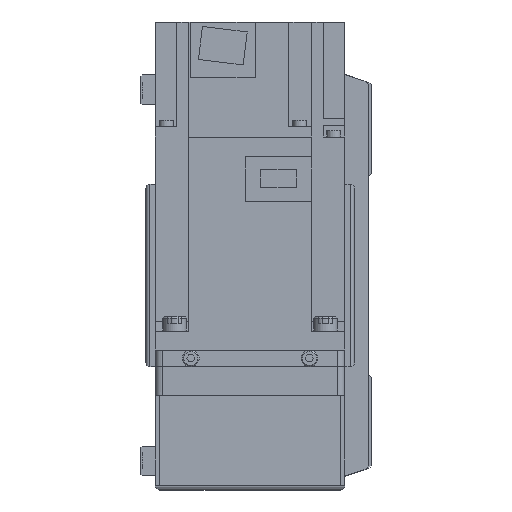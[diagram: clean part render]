
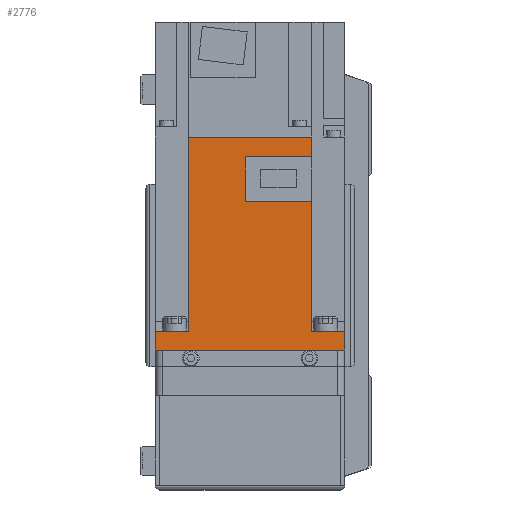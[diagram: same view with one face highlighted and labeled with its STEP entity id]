
A CAD part, left-side view. The second image highlights one B-rep face of the part: STEP entity #2776.
In plain terms, the highlighted planar face has unit normal (-1, 0, 0) as drawn and (1, 0, 0) by its records, which use the part's own axes.
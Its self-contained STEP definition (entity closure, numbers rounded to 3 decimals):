
#2776 = ADVANCED_FACE( '', ( #5897 ), #5898, .F. );
#5897 = FACE_OUTER_BOUND( '', #9329, .T. );
#5898 = PLANE( '', #9330 );
#9329 = EDGE_LOOP( '', ( #17227, #17228, #17229, #17230, #17231, #17232, #17233, #17234, #17235, #17236, #17237, #17238 ) );
#9330 = AXIS2_PLACEMENT_3D( '', #17239, #17240, #17241 );
#17227 = ORIENTED_EDGE( '', *, *, #21465, .F. );
#17228 = ORIENTED_EDGE( '', *, *, #22621, .F. );
#17229 = ORIENTED_EDGE( '', *, *, #21736, .F. );
#17230 = ORIENTED_EDGE( '', *, *, #22601, .T. );
#17231 = ORIENTED_EDGE( '', *, *, #22622, .F. );
#17232 = ORIENTED_EDGE( '', *, *, #22179, .T. );
#17233 = ORIENTED_EDGE( '', *, *, #21539, .T. );
#17234 = ORIENTED_EDGE( '', *, *, #21922, .F. );
#17235 = ORIENTED_EDGE( '', *, *, #20512, .F. );
#17236 = ORIENTED_EDGE( '', *, *, #22623, .F. );
#17237 = ORIENTED_EDGE( '', *, *, #21759, .F. );
#17238 = ORIENTED_EDGE( '', *, *, #22291, .F. );
#17239 = CARTESIAN_POINT( '', ( 40., 89.8, 40. ) );
#17240 = DIRECTION( '', ( -1., 0., 0. ) );
#17241 = DIRECTION( '', ( 0., 0., 1. ) );
#20512 = EDGE_CURVE( '', #24884, #24885, #24886, .T. );
#21465 = EDGE_CURVE( '', #25318, #26388, #26389, .T. );
#21539 = EDGE_CURVE( '', #26499, #26497, #26500, .T. );
#21736 = EDGE_CURVE( '', #26773, #26769, #26775, .T. );
#21759 = EDGE_CURVE( '', #26808, #25319, #26809, .T. );
#21922 = EDGE_CURVE( '', #24885, #26497, #27036, .T. );
#22179 = EDGE_CURVE( '', #27365, #26499, #27366, .T. );
#22291 = EDGE_CURVE( '', #26388, #26808, #27509, .T. );
#22601 = EDGE_CURVE( '', #26773, #27893, #27895, .T. );
#22621 = EDGE_CURVE( '', #26769, #25318, #27916, .T. );
#22622 = EDGE_CURVE( '', #27365, #27893, #27917, .T. );
#22623 = EDGE_CURVE( '', #25319, #24884, #27918, .T. );
#24884 = VERTEX_POINT( '', #31043 );
#24885 = VERTEX_POINT( '', #31044 );
#24886 = LINE( '', #31045, #31046 );
#25318 = VERTEX_POINT( '', #31645 );
#25319 = VERTEX_POINT( '', #31646 );
#26388 = VERTEX_POINT( '', #33470 );
#26389 = LINE( '', #33471, #33472 );
#26497 = VERTEX_POINT( '', #33645 );
#26499 = VERTEX_POINT( '', #33648 );
#26500 = LINE( '', #33649, #33650 );
#26769 = VERTEX_POINT( '', #34155 );
#26773 = VERTEX_POINT( '', #34161 );
#26775 = LINE( '', #34164, #34165 );
#26808 = VERTEX_POINT( '', #34220 );
#26809 = LINE( '', #34221, #34222 );
#27036 = LINE( '', #34571, #34572 );
#27365 = VERTEX_POINT( '', #35063 );
#27366 = LINE( '', #35064, #35065 );
#27509 = LINE( '', #35263, #35264 );
#27893 = VERTEX_POINT( '', #35804 );
#27895 = LINE( '', #35807, #35808 );
#27916 = LINE( '', #35838, #35839 );
#27917 = LINE( '', #35840, #35841 );
#27918 = LINE( '', #35842, #35843 );
#31043 = CARTESIAN_POINT( '', ( 40., 8., -25.95 ) );
#31044 = CARTESIAN_POINT( '', ( 40., 8., -40. ) );
#31045 = CARTESIAN_POINT( '', ( 40., 8., 40. ) );
#31046 = VECTOR( '', #37765, 1000. );
#31645 = CARTESIAN_POINT( '', ( 40., 81.4, -25.95 ) );
#31646 = CARTESIAN_POINT( '', ( 40., 62.8, -25.95 ) );
#33470 = CARTESIAN_POINT( '', ( 40., 81.4, 1.8 ) );
#33471 = CARTESIAN_POINT( '', ( 40., 81.4, -26. ) );
#33472 = VECTOR( '', #39010, 1000. );
#33645 = CARTESIAN_POINT( '', ( 40., 0., -40. ) );
#33648 = CARTESIAN_POINT( '', ( 40., 0., 40. ) );
#33649 = CARTESIAN_POINT( '', ( 40., 0., 40. ) );
#33650 = VECTOR( '', #39082, 1000. );
#34155 = CARTESIAN_POINT( '', ( 40., 89.8, -25.95 ) );
#34161 = CARTESIAN_POINT( '', ( 40., 89.8, 25.95 ) );
#34164 = CARTESIAN_POINT( '', ( 40., 89.8, 40. ) );
#34165 = VECTOR( '', #39300, 1000. );
#34220 = CARTESIAN_POINT( '', ( 40., 62.8, 1.8 ) );
#34221 = CARTESIAN_POINT( '', ( 40., 62.8, 1.8 ) );
#34222 = VECTOR( '', #39325, 1000. );
#34571 = CARTESIAN_POINT( '', ( 40., 89.8, -40. ) );
#34572 = VECTOR( '', #39516, 1000. );
#35063 = CARTESIAN_POINT( '', ( 40., 8., 40. ) );
#35064 = CARTESIAN_POINT( '', ( 40., 89.8, 40. ) );
#35065 = VECTOR( '', #39789, 1000. );
#35263 = CARTESIAN_POINT( '', ( 40., 81.4, 1.8 ) );
#35264 = VECTOR( '', #39900, 1000. );
#35804 = CARTESIAN_POINT( '', ( 40., 8., 25.95 ) );
#35807 = CARTESIAN_POINT( '', ( 40., 158., 25.95 ) );
#35808 = VECTOR( '', #40200, 1000. );
#35838 = CARTESIAN_POINT( '', ( 40., 158., -25.95 ) );
#35839 = VECTOR( '', #40216, 1000. );
#35840 = CARTESIAN_POINT( '', ( 40., 8., 40. ) );
#35841 = VECTOR( '', #40217, 1000. );
#35842 = CARTESIAN_POINT( '', ( 40., 158., -25.95 ) );
#35843 = VECTOR( '', #40218, 1000. );
#37765 = DIRECTION( '', ( 0., 0., -1. ) );
#39010 = DIRECTION( '', ( 0., 0., 1. ) );
#39082 = DIRECTION( '', ( 0., 0., -1. ) );
#39300 = DIRECTION( '', ( 0., 0., -1. ) );
#39325 = DIRECTION( '', ( 0., 0., -1. ) );
#39516 = DIRECTION( '', ( 0., -1., 0. ) );
#39789 = DIRECTION( '', ( 0., -1., 0. ) );
#39900 = DIRECTION( '', ( 0., -1., 0. ) );
#40200 = DIRECTION( '', ( 0., -1., 0. ) );
#40216 = DIRECTION( '', ( 0., -1., 0. ) );
#40217 = DIRECTION( '', ( 0., 0., -1. ) );
#40218 = DIRECTION( '', ( 0., -1., 0. ) );
